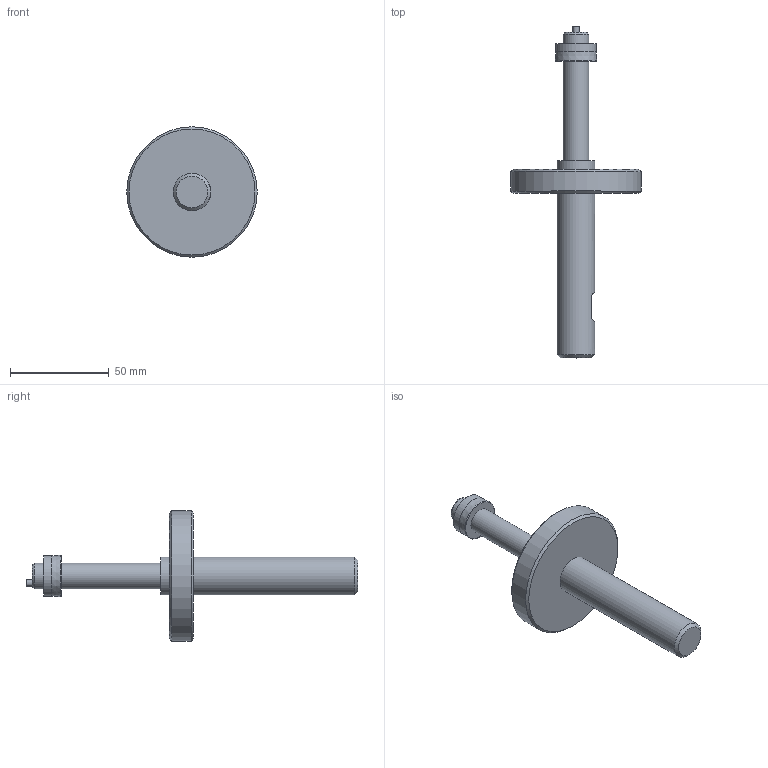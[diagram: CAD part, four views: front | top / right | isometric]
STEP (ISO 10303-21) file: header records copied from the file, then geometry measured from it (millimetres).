
FILE_DESCRIPTION (( 'STEP AP203' ), '1' );
FILE_NAME ('AF50-SIMPLE - AF50-13.00-21.00M.step', '2025-01-21T16:25:09', ( '' ), ( '' ), 'SwSTEP 2.0', 'SolidWorks 2024', '' );
FILE_SCHEMA (( 'CONFIG_CONTROL_DESIGN' ));
Length unit declared in the file: inch
Products named in the file (1): AF50-SIMPLE - AF50-13.00-21.00M
Bounding box: 66.04 x 168.02 x 66.04 mm (x, y, z)
Volume: 76527.5 mm3; surface area: 17559.1 mm2
Topology: 1 solids, 1 shells, 24 faces, 40 edges, 25 vertices
Faces by surface type: plane 11, cylinder 7, cone 5, torus 1
Full cylindrical faces by diameter (mm): 3.175 x1, 12.878 x2, 19.05 x2, 20.494 x1, 66.04 x1
Entity records: 569 total; most frequent: DIRECTION 94, CARTESIAN_POINT 81, ORIENTED_EDGE 52, AXIS2_PLACEMENT_3D 45, EDGE_LOOP 44, FACE_OUTER_BOUND 32, EDGE_CURVE 26, ADVANCED_FACE 24
